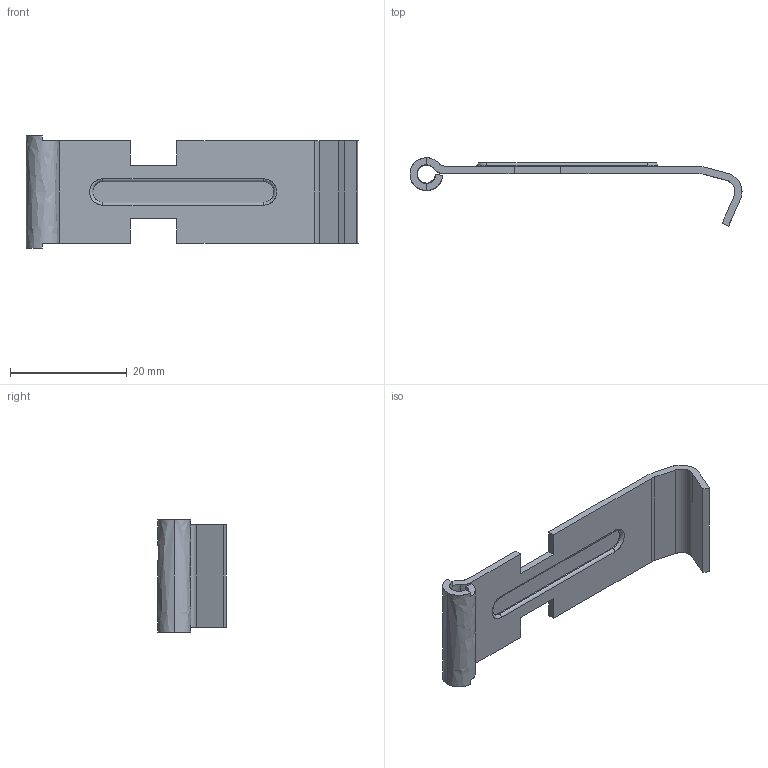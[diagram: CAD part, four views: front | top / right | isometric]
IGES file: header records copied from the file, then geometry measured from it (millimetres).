
Start section: SolidWorks IGES FILE using analytic representation for surfaces
Global section: file name: C:\Documents and Settings\brechard\Bureau\GE 67\67.030.00.IGS; native system: SolidWorks 2001Plus by SolidWorks Corporation; preprocessor: Version 5.3; author: brechard; date: 050126.103544; units: millimetre
Bounding box: 56.8 x 11.68 x 19.2 mm (x, y, z)
Surface area: 2707.1 mm2 (no closed solid volume)
Topology: 0 solids, 0 shells, 54 faces, 540 edges, 540 vertices
Faces by surface type: bspline 36, revolution 18
